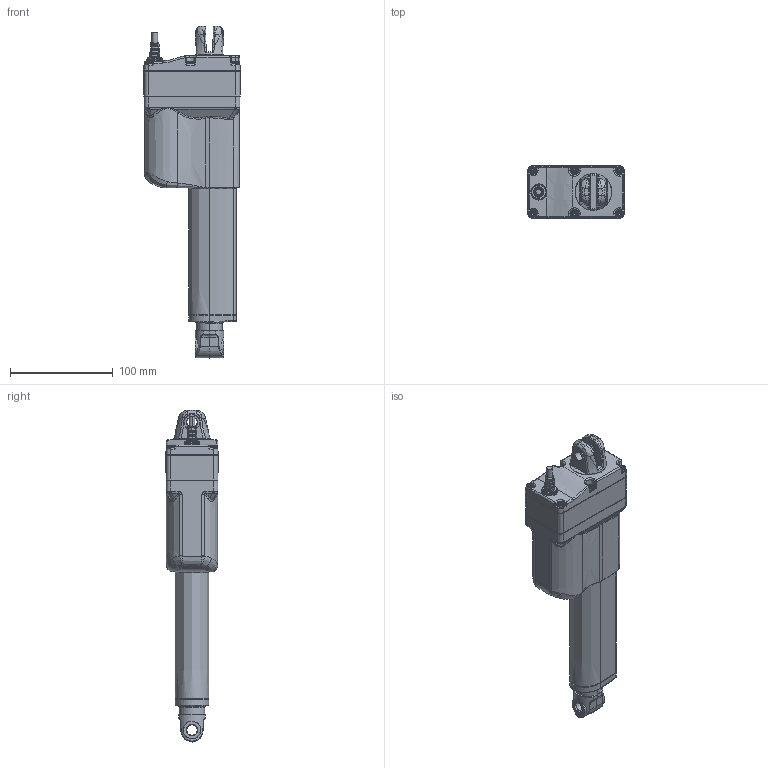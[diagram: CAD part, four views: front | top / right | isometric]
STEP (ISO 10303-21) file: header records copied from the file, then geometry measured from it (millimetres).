
FILE_DESCRIPTION((''),'2;1');
FILE_NAME('KA19_ASM','2026-08-12T11:09:10',('jmo'),(''),'CREO PARAMETRIC BY PTC INC, 2022024','CREO PARAMETRIC BY PTC INC, 2022024','');
FILE_SCHEMA(('AUTOMOTIVE_DESIGN { 1 0 10303 214 1 1 1 1 }'));
Products named in the file (5): KA-19-H; KA-19-PR; KA-19-OT; KA19-BF; KA19_ASM
Assembly tree (4 placements, depth 2):
  KA19_ASM
    KA-19-H
    KA-19-PR
    KA-19-OT
    KA19-BF
Bounding box: 94 x 51 x 323.63 mm (x, y, z)
Volume: 967319.5 mm3; surface area: 106850.8 mm2
Topology: 4 solids, 13 shells, 1599 faces, 3919 edges, 2376 vertices
Faces by surface type: plane 416, bspline 400, cylinder 381, extrusion 156, torus 125, cone 103, sphere 12, revolution 6
Entity records: 76542 total; most frequent: CARTESIAN_POINT 42048, ORIENTED_EDGE 7814, DIRECTION 5206, EDGE_CURVE 3907, VERTEX_POINT 2376, B_SPLINE_CURVE_WITH_KNOTS 2053, AXIS2_PLACEMENT_3D 1982, EDGE_LOOP 1649
